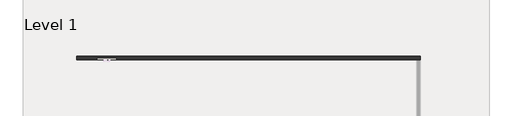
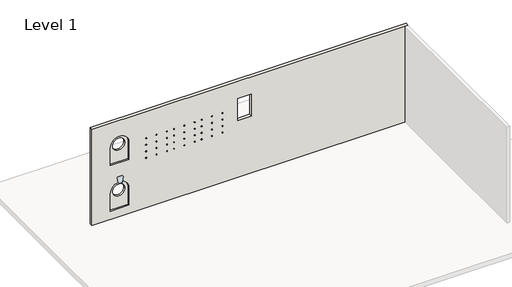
# One storey, part 2 of 3: 1 wall.
"""IFC4 building model written with IfcOpenShell, lengths in millimetres."""

from ifc_helpers import new_model, si_unit, frame, origin, place, context, project, spatial, polyline, circle_curve, element, save
from ifc_brep_helpers import plane_surface, revolved_surface, advanced_brep

model = new_model("IFC4")

# Units and contexts
model_context = context("Model", 3, world=origin())
ifc_project = project(units=[si_unit("LENGTHUNIT", "METRE", prefix="MILLI")], contexts=[model_context])

# Site, building, storey
site = spatial("IfcSite", under=ifc_project)
building = spatial("IfcBuilding", under=site)
storey = spatial("IfcBuildingStorey", under=building, Name="Level 1", Elevation=0.0)

# Wall
placement = place(None, origin())
element("IfcWall", 1, ObjectType="Generic - 8\"", at=placement, inside=storey, context=model_context, shape_type="AdvancedBrep", body=[
    advanced_brep(
    [(-10651.8299068, 6416.9361552, 0.0), (9972.9700932, 6416.9361552, 0.0), (10176.1700932, 6416.9361552, 0.0), (10176.1700932, 6416.9361552, 6705.6), (9972.9700932, 6416.9361552, 6705.6), (-10651.8299068, 6416.9361552, 6705.6), (-9432.6299068, 6416.9361552, 579.8651738), (-9432.6299068, 6416.9361552, 1799.0651738), (-8213.4299068, 6416.9361552, 1799.0651738), (-8213.4299068, 6416.9361552, 579.8651738), (-9432.6299068, 6416.9361552, 3768.9326935), (-9432.6299068, 6416.9361552, 4988.1326935), (-8213.4299068, 6416.9361552, 4988.1326935), (-8213.4299068, 6416.9361552, 3768.9326935), (-5724.2299068, 6416.9361552, 3923.0676017), (-5673.4299068, 6416.9361552, 3923.0676017), (-7095.8299068, 6416.9361552, 3923.0676017), (-7045.0299068, 6416.9361552, 3923.0676017), (-7095.8299068, 6416.9361552, 3465.8676017), (-7045.0299068, 6416.9361552, 3465.8676017), (-5724.2299068, 6416.9361552, 3465.8676017), (-5673.4299068, 6416.9361552, 3465.8676017), (-6410.0299068, 6416.9361552, 3923.0676017), (-6359.2299068, 6416.9361552, 3923.0676017), (-6410.0299068, 6416.9361552, 3465.8676017), (-6359.2299068, 6416.9361552, 3465.8676017), (-3895.4299068, 6416.9361552, 3928.5519039), (-3844.6299068, 6416.9361552, 3928.5519039), (-5267.0299068, 6416.9361552, 3928.5519039), (-5216.2299068, 6416.9361552, 3928.5519039), (-5267.0299068, 6416.9361552, 3471.3519039), (-5216.2299068, 6416.9361552, 3471.3519039), (-3895.4299068, 6416.9361552, 3471.3519039), (-3844.6299068, 6416.9361552, 3471.3519039), (-4581.2299068, 6416.9361552, 3928.5519039), (-4530.4299068, 6416.9361552, 3928.5519039), (-4581.2299068, 6416.9361552, 3471.3519039), (-4530.4299068, 6416.9361552, 3471.3519039), (-2066.6299068, 6416.9361552, 3931.9242605), (-2015.8299068, 6416.9361552, 3931.9242605), (-3438.2299068, 6416.9361552, 3931.9242605), (-3387.4299068, 6416.9361552, 3931.9242605), (-3438.2299068, 6416.9361552, 3474.7242605), (-3387.4299068, 6416.9361552, 3474.7242605), (-2066.6299068, 6416.9361552, 3474.7242605), (-2015.8299068, 6416.9361552, 3474.7242605), (-2752.4299068, 6416.9361552, 3931.9242605), (-2701.6299068, 6416.9361552, 3931.9242605), (-2752.4299068, 6416.9361552, 3474.7242605), (-2701.6299068, 6416.9361552, 3474.7242605), (-5724.2299068, 6416.9361552, 4839.651752), (-5673.4299068, 6416.9361552, 4839.651752), (-7095.8299068, 6416.9361552, 4839.651752), (-7045.0299068, 6416.9361552, 4839.651752), (-7095.8299068, 6416.9361552, 4382.451752), (-7045.0299068, 6416.9361552, 4382.451752), (-5724.2299068, 6416.9361552, 4382.451752), (-5673.4299068, 6416.9361552, 4382.451752), (-6410.0299068, 6416.9361552, 4839.651752), (-6359.2299068, 6416.9361552, 4839.651752), (-6410.0299068, 6416.9361552, 4382.451752), (-6359.2299068, 6416.9361552, 4382.451752), (-3895.4299068, 6416.9361552, 4842.2719902), (-3844.6299068, 6416.9361552, 4842.2719902), (-5267.0299068, 6416.9361552, 4842.2719902), (-5216.2299068, 6416.9361552, 4842.2719902), (-5267.0299068, 6416.9361552, 4385.0719902), (-5216.2299068, 6416.9361552, 4385.0719902), (-3895.4299068, 6416.9361552, 4385.0719902), (-3844.6299068, 6416.9361552, 4385.0719902), (-4581.2299068, 6416.9361552, 4842.2719902), (-4530.4299068, 6416.9361552, 4842.2719902), (-4581.2299068, 6416.9361552, 4385.0719902), (-4530.4299068, 6416.9361552, 4385.0719902), (-2066.6299068, 6416.9361552, 4846.3242605), (-2015.8299068, 6416.9361552, 4846.3242605), (-3438.2299068, 6416.9361552, 4846.3242605), (-3387.4299068, 6416.9361552, 4846.3242605), (-3438.2299068, 6416.9361552, 4389.1242605), (-3387.4299068, 6416.9361552, 4389.1242605), (-2066.6299068, 6416.9361552, 4389.1242605), (-2015.8299068, 6416.9361552, 4389.1242605), (-2752.4299068, 6416.9361552, 4846.3242605), (-2701.6299068, 6416.9361552, 4846.3242605), (-2752.4299068, 6416.9361552, 4389.1242605), (-2701.6299068, 6416.9361552, 4389.1242605), (-1050.6299068, 6416.9361552, 5486.4), (-136.2299068, 6416.9361552, 5486.4), (-136.2299068, 6416.9361552, 3962.4), (-1050.6299068, 6416.9361552, 3962.4), (-10651.8299068, 6620.1361552, 0.0), (-10651.8299068, 6620.1361552, 6705.6), (10176.1700932, 6620.1361552, 6705.6), (10176.1700932, 6620.1361552, 0.0), (-9229.4299068, 6620.1361552, 1799.0651738), (-8416.6299068, 6620.1361552, 1799.0651738), (-9229.4299068, 6620.1361552, 4988.1326935), (-8416.6299068, 6620.1361552, 4988.1326935), (-1050.6299068, 6620.1361552, 5486.4), (-1050.6299068, 6620.1361552, 3962.4), (-136.2299068, 6620.1361552, 3962.4), (-136.2299068, 6620.1361552, 5486.4), (-9432.6299068, 6518.5361552, 579.8651738), (-8213.4299068, 6518.5361552, 579.8651738), (-8213.4299068, 6518.5361552, 1799.0651738), (-9432.6299068, 6518.5361552, 1799.0651738), (-8416.6299068, 6518.5361552, 1799.0651738), (-9229.4299068, 6518.5361552, 1799.0651738), (-9432.6299068, 6518.5361552, 3768.9326935), (-8213.4299068, 6518.5361552, 3768.9326935), (-8213.4299068, 6518.5361552, 4988.1326935), (-9432.6299068, 6518.5361552, 4988.1326935), (-8416.6299068, 6518.5361552, 4988.1326935), (-9229.4299068, 6518.5361552, 4988.1326935), (-5724.2299068, 6467.7361552, 3923.0676017), (-5673.4299068, 6467.7361552, 3923.0676017), (-7095.8299068, 6467.7361552, 3923.0676017), (-7045.0299068, 6467.7361552, 3923.0676017), (-7095.8299068, 6467.7361552, 3465.8676017), (-7045.0299068, 6467.7361552, 3465.8676017), (-5724.2299068, 6467.7361552, 3465.8676017), (-5673.4299068, 6467.7361552, 3465.8676017), (-6410.0299068, 6467.7361552, 3923.0676017), (-6359.2299068, 6467.7361552, 3923.0676017), (-6410.0299068, 6467.7361552, 3465.8676017), (-6359.2299068, 6467.7361552, 3465.8676017), (-3895.4299068, 6467.7361552, 3928.5519039), (-3844.6299068, 6467.7361552, 3928.5519039), (-5267.0299068, 6467.7361552, 3928.5519039), (-5216.2299068, 6467.7361552, 3928.5519039), (-5267.0299068, 6467.7361552, 3471.3519039), (-5216.2299068, 6467.7361552, 3471.3519039), (-3895.4299068, 6467.7361552, 3471.3519039), (-3844.6299068, 6467.7361552, 3471.3519039), (-4581.2299068, 6467.7361552, 3928.5519039), (-4530.4299068, 6467.7361552, 3928.5519039), (-4581.2299068, 6467.7361552, 3471.3519039), (-4530.4299068, 6467.7361552, 3471.3519039), (-2066.6299068, 6467.7361552, 3931.9242605), (-2015.8299068, 6467.7361552, 3931.9242605), (-3438.2299068, 6467.7361552, 3931.9242605), (-3387.4299068, 6467.7361552, 3931.9242605), (-3438.2299068, 6467.7361552, 3474.7242605), (-3387.4299068, 6467.7361552, 3474.7242605), (-2066.6299068, 6467.7361552, 3474.7242605), (-2015.8299068, 6467.7361552, 3474.7242605), (-2752.4299068, 6467.7361552, 3931.9242605), (-2701.6299068, 6467.7361552, 3931.9242605), (-2752.4299068, 6467.7361552, 3474.7242605), (-2701.6299068, 6467.7361552, 3474.7242605), (-5724.2299068, 6467.7361552, 4839.651752), (-5673.4299068, 6467.7361552, 4839.651752), (-7095.8299068, 6467.7361552, 4839.651752), (-7045.0299068, 6467.7361552, 4839.651752), (-7095.8299068, 6467.7361552, 4382.451752), (-7045.0299068, 6467.7361552, 4382.451752), (-5724.2299068, 6467.7361552, 4382.451752), (-5673.4299068, 6467.7361552, 4382.451752), (-6410.0299068, 6467.7361552, 4839.651752), (-6359.2299068, 6467.7361552, 4839.651752), (-6410.0299068, 6467.7361552, 4382.451752), (-6359.2299068, 6467.7361552, 4382.451752), (-3895.4299068, 6467.7361552, 4842.2719902), (-3844.6299068, 6467.7361552, 4842.2719902), (-5267.0299068, 6467.7361552, 4842.2719902), (-5216.2299068, 6467.7361552, 4842.2719902), (-5267.0299068, 6467.7361552, 4385.0719902), (-5216.2299068, 6467.7361552, 4385.0719902), (-3895.4299068, 6467.7361552, 4385.0719902), (-3844.6299068, 6467.7361552, 4385.0719902), (-4581.2299068, 6467.7361552, 4842.2719902), (-4530.4299068, 6467.7361552, 4842.2719902), (-4581.2299068, 6467.7361552, 4385.0719902), (-4530.4299068, 6467.7361552, 4385.0719902), (-2066.6299068, 6467.7361552, 4846.3242605), (-2015.8299068, 6467.7361552, 4846.3242605), (-3438.2299068, 6467.7361552, 4846.3242605), (-3387.4299068, 6467.7361552, 4846.3242605), (-3438.2299068, 6467.7361552, 4389.1242605), (-3387.4299068, 6467.7361552, 4389.1242605), (-2066.6299068, 6467.7361552, 4389.1242605), (-2015.8299068, 6467.7361552, 4389.1242605), (-2752.4299068, 6467.7361552, 4846.3242605), (-2701.6299068, 6467.7361552, 4846.3242605), (-2752.4299068, 6467.7361552, 4389.1242605), (-2701.6299068, 6467.7361552, 4389.1242605)],
    [
        (0, 1),
        (1, 2),
        (2, 3),
        (3, 4),
        (4, 5),
        (5, 0),
        (6, 7),
        (7, 8, circle_curve(frame((-8823.0299068, 6416.9361552, 1799.0651738), z_axis=(0.0, 1.0, 0.0), x_axis=(1.0, 0.0, 0.0)), 609.6)),
        (8, 9),
        (9, 6),
        (10, 11),
        (11, 12, circle_curve(frame((-8823.0299068, 6416.9361552, 4988.1326935), z_axis=(0.0, 1.0, 0.0), x_axis=(1.0, 0.0, 0.0)), 609.6)),
        (12, 13),
        (13, 10),
        (14, 15, circle_curve(frame((-5698.8299068, 6416.9361552, 3923.0676017), z_axis=(0.0, 1.0, 0.0), x_axis=(1.0, 0.0, 0.0)), 25.4)),
        (15, 14, circle_curve(frame((-5698.8299068, 6416.9361552, 3923.0676017), z_axis=(0.0, 1.0, 0.0), x_axis=(1.0, 0.0, 0.0)), 25.4)),
        (16, 17, circle_curve(frame((-7070.4299068, 6416.9361552, 3923.0676017), z_axis=(0.0, 1.0, 0.0), x_axis=(1.0, 0.0, 0.0)), 25.4)),
        (17, 16, circle_curve(frame((-7070.4299068, 6416.9361552, 3923.0676017), z_axis=(0.0, 1.0, 0.0), x_axis=(1.0, 0.0, 0.0)), 25.4)),
        (18, 19, circle_curve(frame((-7070.4299068, 6416.9361552, 3465.8676017), z_axis=(0.0, 1.0, 0.0), x_axis=(1.0, 0.0, 0.0)), 25.4)),
        (19, 18, circle_curve(frame((-7070.4299068, 6416.9361552, 3465.8676017), z_axis=(0.0, 1.0, 0.0), x_axis=(1.0, 0.0, 0.0)), 25.4)),
        (20, 21, circle_curve(frame((-5698.8299068, 6416.9361552, 3465.8676017), z_axis=(0.0, 1.0, 0.0), x_axis=(1.0, 0.0, 0.0)), 25.4)),
        (21, 20, circle_curve(frame((-5698.8299068, 6416.9361552, 3465.8676017), z_axis=(0.0, 1.0, 0.0), x_axis=(1.0, 0.0, 0.0)), 25.4)),
        (22, 23, circle_curve(frame((-6384.6299068, 6416.9361552, 3923.0676017), z_axis=(0.0, 1.0, 0.0), x_axis=(1.0, 0.0, 0.0)), 25.4)),
        (23, 22, circle_curve(frame((-6384.6299068, 6416.9361552, 3923.0676017), z_axis=(0.0, 1.0, 0.0), x_axis=(1.0, 0.0, 0.0)), 25.4)),
        (24, 25, circle_curve(frame((-6384.6299068, 6416.9361552, 3465.8676017), z_axis=(0.0, 1.0, 0.0), x_axis=(1.0, 0.0, 0.0)), 25.4)),
        (25, 24, circle_curve(frame((-6384.6299068, 6416.9361552, 3465.8676017), z_axis=(0.0, 1.0, 0.0), x_axis=(1.0, 0.0, 0.0)), 25.4)),
        (26, 27, circle_curve(frame((-3870.0299068, 6416.9361552, 3928.5519039), z_axis=(0.0, 1.0, 0.0), x_axis=(1.0, 0.0, 0.0)), 25.4)),
        (27, 26, circle_curve(frame((-3870.0299068, 6416.9361552, 3928.5519039), z_axis=(0.0, 1.0, 0.0), x_axis=(1.0, 0.0, 0.0)), 25.4)),
        (28, 29, circle_curve(frame((-5241.6299068, 6416.9361552, 3928.5519039), z_axis=(0.0, 1.0, 0.0), x_axis=(1.0, 0.0, 0.0)), 25.4)),
        (29, 28, circle_curve(frame((-5241.6299068, 6416.9361552, 3928.5519039), z_axis=(0.0, 1.0, 0.0), x_axis=(1.0, 0.0, 0.0)), 25.4)),
        (30, 31, circle_curve(frame((-5241.6299068, 6416.9361552, 3471.3519039), z_axis=(0.0, 1.0, 0.0), x_axis=(1.0, 0.0, 0.0)), 25.4)),
        (31, 30, circle_curve(frame((-5241.6299068, 6416.9361552, 3471.3519039), z_axis=(0.0, 1.0, 0.0), x_axis=(1.0, 0.0, 0.0)), 25.4)),
        (32, 33, circle_curve(frame((-3870.0299068, 6416.9361552, 3471.3519039), z_axis=(0.0, 1.0, 0.0), x_axis=(1.0, 0.0, 0.0)), 25.4)),
        (33, 32, circle_curve(frame((-3870.0299068, 6416.9361552, 3471.3519039), z_axis=(0.0, 1.0, 0.0), x_axis=(1.0, 0.0, 0.0)), 25.4)),
        (34, 35, circle_curve(frame((-4555.8299068, 6416.9361552, 3928.5519039), z_axis=(0.0, 1.0, 0.0), x_axis=(1.0, 0.0, 0.0)), 25.4)),
        (35, 34, circle_curve(frame((-4555.8299068, 6416.9361552, 3928.5519039), z_axis=(0.0, 1.0, 0.0), x_axis=(1.0, 0.0, 0.0)), 25.4)),
        (36, 37, circle_curve(frame((-4555.8299068, 6416.9361552, 3471.3519039), z_axis=(0.0, 1.0, 0.0), x_axis=(1.0, 0.0, 0.0)), 25.4)),
        (37, 36, circle_curve(frame((-4555.8299068, 6416.9361552, 3471.3519039), z_axis=(0.0, 1.0, 0.0), x_axis=(1.0, 0.0, 0.0)), 25.4)),
        (38, 39, circle_curve(frame((-2041.2299068, 6416.9361552, 3931.9242605), z_axis=(0.0, 1.0, 0.0), x_axis=(1.0, 0.0, 0.0)), 25.4)),
        (39, 38, circle_curve(frame((-2041.2299068, 6416.9361552, 3931.9242605), z_axis=(0.0, 1.0, 0.0), x_axis=(1.0, 0.0, 0.0)), 25.4)),
        (40, 41, circle_curve(frame((-3412.8299068, 6416.9361552, 3931.9242605), z_axis=(0.0, 1.0, 0.0), x_axis=(1.0, 0.0, 0.0)), 25.4)),
        (41, 40, circle_curve(frame((-3412.8299068, 6416.9361552, 3931.9242605), z_axis=(0.0, 1.0, 0.0), x_axis=(1.0, 0.0, 0.0)), 25.4)),
        (42, 43, circle_curve(frame((-3412.8299068, 6416.9361552, 3474.7242605), z_axis=(0.0, 1.0, 0.0), x_axis=(1.0, 0.0, 0.0)), 25.4)),
        (43, 42, circle_curve(frame((-3412.8299068, 6416.9361552, 3474.7242605), z_axis=(0.0, 1.0, 0.0), x_axis=(1.0, 0.0, 0.0)), 25.4)),
        (44, 45, circle_curve(frame((-2041.2299068, 6416.9361552, 3474.7242605), z_axis=(0.0, 1.0, 0.0), x_axis=(1.0, 0.0, 0.0)), 25.4)),
        (45, 44, circle_curve(frame((-2041.2299068, 6416.9361552, 3474.7242605), z_axis=(0.0, 1.0, 0.0), x_axis=(1.0, 0.0, 0.0)), 25.4)),
        (46, 47, circle_curve(frame((-2727.0299068, 6416.9361552, 3931.9242605), z_axis=(0.0, 1.0, 0.0), x_axis=(1.0, 0.0, 0.0)), 25.4)),
        (47, 46, circle_curve(frame((-2727.0299068, 6416.9361552, 3931.9242605), z_axis=(0.0, 1.0, 0.0), x_axis=(1.0, 0.0, 0.0)), 25.4)),
        (48, 49, circle_curve(frame((-2727.0299068, 6416.9361552, 3474.7242605), z_axis=(0.0, 1.0, 0.0), x_axis=(1.0, 0.0, 0.0)), 25.4)),
        (49, 48, circle_curve(frame((-2727.0299068, 6416.9361552, 3474.7242605), z_axis=(0.0, 1.0, 0.0), x_axis=(1.0, 0.0, 0.0)), 25.4)),
        (50, 51, circle_curve(frame((-5698.8299068, 6416.9361552, 4839.651752), z_axis=(0.0, 1.0, 0.0), x_axis=(1.0, 0.0, 0.0)), 25.4)),
        (51, 50, circle_curve(frame((-5698.8299068, 6416.9361552, 4839.651752), z_axis=(0.0, 1.0, 0.0), x_axis=(1.0, 0.0, 0.0)), 25.4)),
        (52, 53, circle_curve(frame((-7070.4299068, 6416.9361552, 4839.651752), z_axis=(0.0, 1.0, 0.0), x_axis=(1.0, 0.0, 0.0)), 25.4)),
        (53, 52, circle_curve(frame((-7070.4299068, 6416.9361552, 4839.651752), z_axis=(0.0, 1.0, 0.0), x_axis=(1.0, 0.0, 0.0)), 25.4)),
        (54, 55, circle_curve(frame((-7070.4299068, 6416.9361552, 4382.451752), z_axis=(0.0, 1.0, 0.0), x_axis=(1.0, 0.0, 0.0)), 25.4)),
        (55, 54, circle_curve(frame((-7070.4299068, 6416.9361552, 4382.451752), z_axis=(0.0, 1.0, 0.0), x_axis=(1.0, 0.0, 0.0)), 25.4)),
        (56, 57, circle_curve(frame((-5698.8299068, 6416.9361552, 4382.451752), z_axis=(0.0, 1.0, 0.0), x_axis=(1.0, 0.0, 0.0)), 25.4)),
        (57, 56, circle_curve(frame((-5698.8299068, 6416.9361552, 4382.451752), z_axis=(0.0, 1.0, 0.0), x_axis=(1.0, 0.0, 0.0)), 25.4)),
        (58, 59, circle_curve(frame((-6384.6299068, 6416.9361552, 4839.651752), z_axis=(0.0, 1.0, 0.0), x_axis=(1.0, 0.0, 0.0)), 25.4)),
        (59, 58, circle_curve(frame((-6384.6299068, 6416.9361552, 4839.651752), z_axis=(0.0, 1.0, 0.0), x_axis=(1.0, 0.0, 0.0)), 25.4)),
        (60, 61, circle_curve(frame((-6384.6299068, 6416.9361552, 4382.451752), z_axis=(0.0, 1.0, 0.0), x_axis=(1.0, 0.0, 0.0)), 25.4)),
        (61, 60, circle_curve(frame((-6384.6299068, 6416.9361552, 4382.451752), z_axis=(0.0, 1.0, 0.0), x_axis=(1.0, 0.0, 0.0)), 25.4)),
        (62, 63, circle_curve(frame((-3870.0299068, 6416.9361552, 4842.2719902), z_axis=(0.0, 1.0, 0.0), x_axis=(1.0, 0.0, 0.0)), 25.4)),
        (63, 62, circle_curve(frame((-3870.0299068, 6416.9361552, 4842.2719902), z_axis=(0.0, 1.0, 0.0), x_axis=(1.0, 0.0, 0.0)), 25.4)),
        (64, 65, circle_curve(frame((-5241.6299068, 6416.9361552, 4842.2719902), z_axis=(0.0, 1.0, 0.0), x_axis=(1.0, 0.0, 0.0)), 25.4)),
        (65, 64, circle_curve(frame((-5241.6299068, 6416.9361552, 4842.2719902), z_axis=(0.0, 1.0, 0.0), x_axis=(1.0, 0.0, 0.0)), 25.4)),
        (66, 67, circle_curve(frame((-5241.6299068, 6416.9361552, 4385.0719902), z_axis=(0.0, 1.0, 0.0), x_axis=(1.0, 0.0, 0.0)), 25.4)),
        (67, 66, circle_curve(frame((-5241.6299068, 6416.9361552, 4385.0719902), z_axis=(0.0, 1.0, 0.0), x_axis=(1.0, 0.0, 0.0)), 25.4)),
        (68, 69, circle_curve(frame((-3870.0299068, 6416.9361552, 4385.0719902), z_axis=(0.0, 1.0, 0.0), x_axis=(1.0, 0.0, 0.0)), 25.4)),
        (69, 68, circle_curve(frame((-3870.0299068, 6416.9361552, 4385.0719902), z_axis=(0.0, 1.0, 0.0), x_axis=(1.0, 0.0, 0.0)), 25.4)),
        (70, 71, circle_curve(frame((-4555.8299068, 6416.9361552, 4842.2719902), z_axis=(0.0, 1.0, 0.0), x_axis=(1.0, 0.0, 0.0)), 25.4)),
        (71, 70, circle_curve(frame((-4555.8299068, 6416.9361552, 4842.2719902), z_axis=(0.0, 1.0, 0.0), x_axis=(1.0, 0.0, 0.0)), 25.4)),
        (72, 73, circle_curve(frame((-4555.8299068, 6416.9361552, 4385.0719902), z_axis=(0.0, 1.0, 0.0), x_axis=(1.0, 0.0, 0.0)), 25.4)),
        (73, 72, circle_curve(frame((-4555.8299068, 6416.9361552, 4385.0719902), z_axis=(0.0, 1.0, 0.0), x_axis=(1.0, 0.0, 0.0)), 25.4)),
        (74, 75, circle_curve(frame((-2041.2299068, 6416.9361552, 4846.3242605), z_axis=(0.0, 1.0, 0.0), x_axis=(1.0, 0.0, 0.0)), 25.4)),
        (75, 74, circle_curve(frame((-2041.2299068, 6416.9361552, 4846.3242605), z_axis=(0.0, 1.0, 0.0), x_axis=(1.0, 0.0, 0.0)), 25.4)),
        (76, 77, circle_curve(frame((-3412.8299068, 6416.9361552, 4846.3242605), z_axis=(0.0, 1.0, 0.0), x_axis=(1.0, 0.0, 0.0)), 25.4)),
        (77, 76, circle_curve(frame((-3412.8299068, 6416.9361552, 4846.3242605), z_axis=(0.0, 1.0, 0.0), x_axis=(1.0, 0.0, 0.0)), 25.4)),
        (78, 79, circle_curve(frame((-3412.8299068, 6416.9361552, 4389.1242605), z_axis=(0.0, 1.0, 0.0), x_axis=(1.0, 0.0, 0.0)), 25.4)),
        (79, 78, circle_curve(frame((-3412.8299068, 6416.9361552, 4389.1242605), z_axis=(0.0, 1.0, 0.0), x_axis=(1.0, 0.0, 0.0)), 25.4)),
        (80, 81, circle_curve(frame((-2041.2299068, 6416.9361552, 4389.1242605), z_axis=(0.0, 1.0, 0.0), x_axis=(1.0, 0.0, 0.0)), 25.4)),
        (81, 80, circle_curve(frame((-2041.2299068, 6416.9361552, 4389.1242605), z_axis=(0.0, 1.0, 0.0), x_axis=(1.0, 0.0, 0.0)), 25.4)),
        (82, 83, circle_curve(frame((-2727.0299068, 6416.9361552, 4846.3242605), z_axis=(0.0, 1.0, 0.0), x_axis=(1.0, 0.0, 0.0)), 25.4)),
        (83, 82, circle_curve(frame((-2727.0299068, 6416.9361552, 4846.3242605), z_axis=(0.0, 1.0, 0.0), x_axis=(1.0, 0.0, 0.0)), 25.4)),
        (84, 85, circle_curve(frame((-2727.0299068, 6416.9361552, 4389.1242605), z_axis=(0.0, 1.0, 0.0), x_axis=(1.0, 0.0, 0.0)), 25.4)),
        (85, 84, circle_curve(frame((-2727.0299068, 6416.9361552, 4389.1242605), z_axis=(0.0, 1.0, 0.0), x_axis=(1.0, 0.0, 0.0)), 25.4)),
        (86, 87),
        (87, 88),
        (88, 89),
        (89, 86),
        (90, 91),
        (91, 92),
        (92, 93),
        (93, 90),
        (94, 95, circle_curve(frame((-8823.0299068, 6620.1361552, 1799.0651738), z_axis=(0.0, -1.0, 0.0), x_axis=(1.0, 0.0, 0.0)), 406.4)),
        (95, 94, circle_curve(frame((-8823.0299068, 6620.1361552, 1799.0651738), z_axis=(0.0, -1.0, 0.0), x_axis=(1.0, 0.0, 0.0)), 406.4)),
        (96, 97, circle_curve(frame((-8823.0299068, 6620.1361552, 4988.1326935), z_axis=(0.0, -1.0, 0.0), x_axis=(1.0, 0.0, 0.0)), 406.4)),
        (97, 96, circle_curve(frame((-8823.0299068, 6620.1361552, 4988.1326935), z_axis=(0.0, -1.0, 0.0), x_axis=(1.0, 0.0, 0.0)), 406.4)),
        (98, 99),
        (99, 100),
        (100, 101),
        (101, 98),
        (0, 90),
        (93, 2),
        (3, 92),
        (91, 5),
        (102, 103),
        (103, 104),
        (104, 105, circle_curve(frame((-8823.0299068, 6518.5361552, 1799.0651738), z_axis=(0.0, -1.0, 0.0), x_axis=(1.0, 0.0, 0.0)), 609.6)),
        (105, 102),
        (106, 107, circle_curve(frame((-8823.0299068, 6518.5361552, 1799.0651738), z_axis=(0.0, 1.0, 0.0), x_axis=(1.0, 0.0, 0.0)), 406.4)),
        (107, 106, circle_curve(frame((-8823.0299068, 6518.5361552, 1799.0651738), z_axis=(0.0, 1.0, 0.0), x_axis=(1.0, 0.0, 0.0)), 406.4)),
        (105, 7),
        (6, 102),
        (104, 8),
        (103, 9),
        (106, 95),
        (94, 107),
        (108, 109),
        (109, 110),
        (110, 111, circle_curve(frame((-8823.0299068, 6518.5361552, 4988.1326935), z_axis=(0.0, -1.0, 0.0), x_axis=(1.0, 0.0, 0.0)), 609.6)),
        (111, 108),
        (112, 113, circle_curve(frame((-8823.0299068, 6518.5361552, 4988.1326935), z_axis=(0.0, 1.0, 0.0), x_axis=(1.0, 0.0, 0.0)), 406.4)),
        (113, 112, circle_curve(frame((-8823.0299068, 6518.5361552, 4988.1326935), z_axis=(0.0, 1.0, 0.0), x_axis=(1.0, 0.0, 0.0)), 406.4)),
        (111, 11),
        (10, 108),
        (110, 12),
        (109, 13),
        (112, 97),
        (96, 113),
        (114, 115, circle_curve(frame((-5698.8299068, 6467.7361552, 3923.0676017), z_axis=(0.0, -1.0, 0.0), x_axis=(1.0, 0.0, 0.0)), 25.4)),
        (115, 114, circle_curve(frame((-5698.8299068, 6467.7361552, 3923.0676017), z_axis=(0.0, -1.0, 0.0), x_axis=(1.0, 0.0, 0.0)), 25.4)),
        (116, 117, circle_curve(frame((-7070.4299068, 6467.7361552, 3923.0676017), z_axis=(0.0, -1.0, 0.0), x_axis=(1.0, 0.0, 0.0)), 25.4)),
        (117, 116, circle_curve(frame((-7070.4299068, 6467.7361552, 3923.0676017), z_axis=(0.0, -1.0, 0.0), x_axis=(1.0, 0.0, 0.0)), 25.4)),
        (118, 119, circle_curve(frame((-7070.4299068, 6467.7361552, 3465.8676017), z_axis=(0.0, -1.0, 0.0), x_axis=(1.0, 0.0, 0.0)), 25.4)),
        (119, 118, circle_curve(frame((-7070.4299068, 6467.7361552, 3465.8676017), z_axis=(0.0, -1.0, 0.0), x_axis=(1.0, 0.0, 0.0)), 25.4)),
        (120, 121, circle_curve(frame((-5698.8299068, 6467.7361552, 3465.8676017), z_axis=(0.0, -1.0, 0.0), x_axis=(1.0, 0.0, 0.0)), 25.4)),
        (121, 120, circle_curve(frame((-5698.8299068, 6467.7361552, 3465.8676017), z_axis=(0.0, -1.0, 0.0), x_axis=(1.0, 0.0, 0.0)), 25.4)),
        (122, 123, circle_curve(frame((-6384.6299068, 6467.7361552, 3923.0676017), z_axis=(0.0, -1.0, 0.0), x_axis=(1.0, 0.0, 0.0)), 25.4)),
        (123, 122, circle_curve(frame((-6384.6299068, 6467.7361552, 3923.0676017), z_axis=(0.0, -1.0, 0.0), x_axis=(1.0, 0.0, 0.0)), 25.4)),
        (124, 125, circle_curve(frame((-6384.6299068, 6467.7361552, 3465.8676017), z_axis=(0.0, -1.0, 0.0), x_axis=(1.0, 0.0, 0.0)), 25.4)),
        (125, 124, circle_curve(frame((-6384.6299068, 6467.7361552, 3465.8676017), z_axis=(0.0, -1.0, 0.0), x_axis=(1.0, 0.0, 0.0)), 25.4)),
        (115, 15),
        (14, 114),
        (117, 17),
        (16, 116),
        (119, 19),
        (18, 118),
        (121, 21),
        (20, 120),
        (123, 23),
        (22, 122),
        (125, 25),
        (24, 124),
        (126, 127, circle_curve(frame((-3870.0299068, 6467.7361552, 3928.5519039), z_axis=(0.0, -1.0, 0.0), x_axis=(1.0, 0.0, 0.0)), 25.4)),
        (127, 126, circle_curve(frame((-3870.0299068, 6467.7361552, 3928.5519039), z_axis=(0.0, -1.0, 0.0), x_axis=(1.0, 0.0, 0.0)), 25.4)),
        (128, 129, circle_curve(frame((-5241.6299068, 6467.7361552, 3928.5519039), z_axis=(0.0, -1.0, 0.0), x_axis=(1.0, 0.0, 0.0)), 25.4)),
        (129, 128, circle_curve(frame((-5241.6299068, 6467.7361552, 3928.5519039), z_axis=(0.0, -1.0, 0.0), x_axis=(1.0, 0.0, 0.0)), 25.4)),
        (130, 131, circle_curve(frame((-5241.6299068, 6467.7361552, 3471.3519039), z_axis=(0.0, -1.0, 0.0), x_axis=(1.0, 0.0, 0.0)), 25.4)),
        (131, 130, circle_curve(frame((-5241.6299068, 6467.7361552, 3471.3519039), z_axis=(0.0, -1.0, 0.0), x_axis=(1.0, 0.0, 0.0)), 25.4)),
        (132, 133, circle_curve(frame((-3870.0299068, 6467.7361552, 3471.3519039), z_axis=(0.0, -1.0, 0.0), x_axis=(1.0, 0.0, 0.0)), 25.4)),
        (133, 132, circle_curve(frame((-3870.0299068, 6467.7361552, 3471.3519039), z_axis=(0.0, -1.0, 0.0), x_axis=(1.0, 0.0, 0.0)), 25.4)),
        (134, 135, circle_curve(frame((-4555.8299068, 6467.7361552, 3928.5519039), z_axis=(0.0, -1.0, 0.0), x_axis=(1.0, 0.0, 0.0)), 25.4)),
        (135, 134, circle_curve(frame((-4555.8299068, 6467.7361552, 3928.5519039), z_axis=(0.0, -1.0, 0.0), x_axis=(1.0, 0.0, 0.0)), 25.4)),
        (136, 137, circle_curve(frame((-4555.8299068, 6467.7361552, 3471.3519039), z_axis=(0.0, -1.0, 0.0), x_axis=(1.0, 0.0, 0.0)), 25.4)),
        (137, 136, circle_curve(frame((-4555.8299068, 6467.7361552, 3471.3519039), z_axis=(0.0, -1.0, 0.0), x_axis=(1.0, 0.0, 0.0)), 25.4)),
        (127, 27),
        (26, 126),
        (129, 29),
        (28, 128),
        (131, 31),
        (30, 130),
        (133, 33),
        (32, 132),
        (135, 35),
        (34, 134),
        (137, 37),
        (36, 136),
        (138, 139, circle_curve(frame((-2041.2299068, 6467.7361552, 3931.9242605), z_axis=(0.0, -1.0, 0.0), x_axis=(1.0, 0.0, 0.0)), 25.4)),
        (139, 138, circle_curve(frame((-2041.2299068, 6467.7361552, 3931.9242605), z_axis=(0.0, -1.0, 0.0), x_axis=(1.0, 0.0, 0.0)), 25.4)),
        (140, 141, circle_curve(frame((-3412.8299068, 6467.7361552, 3931.9242605), z_axis=(0.0, -1.0, 0.0), x_axis=(1.0, 0.0, 0.0)), 25.4)),
        (141, 140, circle_curve(frame((-3412.8299068, 6467.7361552, 3931.9242605), z_axis=(0.0, -1.0, 0.0), x_axis=(1.0, 0.0, 0.0)), 25.4)),
        (142, 143, circle_curve(frame((-3412.8299068, 6467.7361552, 3474.7242605), z_axis=(0.0, -1.0, 0.0), x_axis=(1.0, 0.0, 0.0)), 25.4)),
        (143, 142, circle_curve(frame((-3412.8299068, 6467.7361552, 3474.7242605), z_axis=(0.0, -1.0, 0.0), x_axis=(1.0, 0.0, 0.0)), 25.4)),
        (144, 145, circle_curve(frame((-2041.2299068, 6467.7361552, 3474.7242605), z_axis=(0.0, -1.0, 0.0), x_axis=(1.0, 0.0, 0.0)), 25.4)),
        (145, 144, circle_curve(frame((-2041.2299068, 6467.7361552, 3474.7242605), z_axis=(0.0, -1.0, 0.0), x_axis=(1.0, 0.0, 0.0)), 25.4)),
        (146, 147, circle_curve(frame((-2727.0299068, 6467.7361552, 3931.9242605), z_axis=(0.0, -1.0, 0.0), x_axis=(1.0, 0.0, 0.0)), 25.4)),
        (147, 146, circle_curve(frame((-2727.0299068, 6467.7361552, 3931.9242605), z_axis=(0.0, -1.0, 0.0), x_axis=(1.0, 0.0, 0.0)), 25.4)),
        (148, 149, circle_curve(frame((-2727.0299068, 6467.7361552, 3474.7242605), z_axis=(0.0, -1.0, 0.0), x_axis=(1.0, 0.0, 0.0)), 25.4)),
        (149, 148, circle_curve(frame((-2727.0299068, 6467.7361552, 3474.7242605), z_axis=(0.0, -1.0, 0.0), x_axis=(1.0, 0.0, 0.0)), 25.4)),
        (139, 39),
        (38, 138),
        (141, 41),
        (40, 140),
        (143, 43),
        (42, 142),
        (145, 45),
        (44, 144),
        (147, 47),
        (46, 146),
        (149, 49),
        (48, 148),
        (150, 151, circle_curve(frame((-5698.8299068, 6467.7361552, 4839.651752), z_axis=(0.0, -1.0, 0.0), x_axis=(1.0, 0.0, 0.0)), 25.4)),
        (151, 150, circle_curve(frame((-5698.8299068, 6467.7361552, 4839.651752), z_axis=(0.0, -1.0, 0.0), x_axis=(1.0, 0.0, 0.0)), 25.4)),
        (152, 153, circle_curve(frame((-7070.4299068, 6467.7361552, 4839.651752), z_axis=(0.0, -1.0, 0.0), x_axis=(1.0, 0.0, 0.0)), 25.4)),
        (153, 152, circle_curve(frame((-7070.4299068, 6467.7361552, 4839.651752), z_axis=(0.0, -1.0, 0.0), x_axis=(1.0, 0.0, 0.0)), 25.4)),
        (154, 155, circle_curve(frame((-7070.4299068, 6467.7361552, 4382.451752), z_axis=(0.0, -1.0, 0.0), x_axis=(1.0, 0.0, 0.0)), 25.4)),
        (155, 154, circle_curve(frame((-7070.4299068, 6467.7361552, 4382.451752), z_axis=(0.0, -1.0, 0.0), x_axis=(1.0, 0.0, 0.0)), 25.4)),
        (156, 157, circle_curve(frame((-5698.8299068, 6467.7361552, 4382.451752), z_axis=(0.0, -1.0, 0.0), x_axis=(1.0, 0.0, 0.0)), 25.4)),
        (157, 156, circle_curve(frame((-5698.8299068, 6467.7361552, 4382.451752), z_axis=(0.0, -1.0, 0.0), x_axis=(1.0, 0.0, 0.0)), 25.4)),
        (158, 159, circle_curve(frame((-6384.6299068, 6467.7361552, 4839.651752), z_axis=(0.0, -1.0, 0.0), x_axis=(1.0, 0.0, 0.0)), 25.4)),
        (159, 158, circle_curve(frame((-6384.6299068, 6467.7361552, 4839.651752), z_axis=(0.0, -1.0, 0.0), x_axis=(1.0, 0.0, 0.0)), 25.4)),
        (160, 161, circle_curve(frame((-6384.6299068, 6467.7361552, 4382.451752), z_axis=(0.0, -1.0, 0.0), x_axis=(1.0, 0.0, 0.0)), 25.4)),
        (161, 160, circle_curve(frame((-6384.6299068, 6467.7361552, 4382.451752), z_axis=(0.0, -1.0, 0.0), x_axis=(1.0, 0.0, 0.0)), 25.4)),
        (151, 51),
        (50, 150),
        (153, 53),
        (52, 152),
        (155, 55),
        (54, 154),
        (157, 57),
        (56, 156),
        (159, 59),
        (58, 158),
        (161, 61),
        (60, 160),
        (162, 163, circle_curve(frame((-3870.0299068, 6467.7361552, 4842.2719902), z_axis=(0.0, -1.0, 0.0), x_axis=(1.0, 0.0, 0.0)), 25.4)),
        (163, 162, circle_curve(frame((-3870.0299068, 6467.7361552, 4842.2719902), z_axis=(0.0, -1.0, 0.0), x_axis=(1.0, 0.0, 0.0)), 25.4)),
        (164, 165, circle_curve(frame((-5241.6299068, 6467.7361552, 4842.2719902), z_axis=(0.0, -1.0, 0.0), x_axis=(1.0, 0.0, 0.0)), 25.4)),
        (165, 164, circle_curve(frame((-5241.6299068, 6467.7361552, 4842.2719902), z_axis=(0.0, -1.0, 0.0), x_axis=(1.0, 0.0, 0.0)), 25.4)),
        (166, 167, circle_curve(frame((-5241.6299068, 6467.7361552, 4385.0719902), z_axis=(0.0, -1.0, 0.0), x_axis=(1.0, 0.0, 0.0)), 25.4)),
        (167, 166, circle_curve(frame((-5241.6299068, 6467.7361552, 4385.0719902), z_axis=(0.0, -1.0, 0.0), x_axis=(1.0, 0.0, 0.0)), 25.4)),
        (168, 169, circle_curve(frame((-3870.0299068, 6467.7361552, 4385.0719902), z_axis=(0.0, -1.0, 0.0), x_axis=(1.0, 0.0, 0.0)), 25.4)),
        (169, 168, circle_curve(frame((-3870.0299068, 6467.7361552, 4385.0719902), z_axis=(0.0, -1.0, 0.0), x_axis=(1.0, 0.0, 0.0)), 25.4)),
        (170, 171, circle_curve(frame((-4555.8299068, 6467.7361552, 4842.2719902), z_axis=(0.0, -1.0, 0.0), x_axis=(1.0, 0.0, 0.0)), 25.4)),
        (171, 170, circle_curve(frame((-4555.8299068, 6467.7361552, 4842.2719902), z_axis=(0.0, -1.0, 0.0), x_axis=(1.0, 0.0, 0.0)), 25.4)),
        (172, 173, circle_curve(frame((-4555.8299068, 6467.7361552, 4385.0719902), z_axis=(0.0, -1.0, 0.0), x_axis=(1.0, 0.0, 0.0)), 25.4)),
        (173, 172, circle_curve(frame((-4555.8299068, 6467.7361552, 4385.0719902), z_axis=(0.0, -1.0, 0.0), x_axis=(1.0, 0.0, 0.0)), 25.4)),
        (163, 63),
        (62, 162),
        (165, 65),
        (64, 164),
        (167, 67),
        (66, 166),
        (169, 69),
        (68, 168),
        (171, 71),
        (70, 170),
        (173, 73),
        (72, 172),
        (174, 175, circle_curve(frame((-2041.2299068, 6467.7361552, 4846.3242605), z_axis=(0.0, -1.0, 0.0), x_axis=(1.0, 0.0, 0.0)), 25.4)),
        (175, 174, circle_curve(frame((-2041.2299068, 6467.7361552, 4846.3242605), z_axis=(0.0, -1.0, 0.0), x_axis=(1.0, 0.0, 0.0)), 25.4)),
        (176, 177, circle_curve(frame((-3412.8299068, 6467.7361552, 4846.3242605), z_axis=(0.0, -1.0, 0.0), x_axis=(1.0, 0.0, 0.0)), 25.4)),
        (177, 176, circle_curve(frame((-3412.8299068, 6467.7361552, 4846.3242605), z_axis=(0.0, -1.0, 0.0), x_axis=(1.0, 0.0, 0.0)), 25.4)),
        (178, 179, circle_curve(frame((-3412.8299068, 6467.7361552, 4389.1242605), z_axis=(0.0, -1.0, 0.0), x_axis=(1.0, 0.0, 0.0)), 25.4)),
        (179, 178, circle_curve(frame((-3412.8299068, 6467.7361552, 4389.1242605), z_axis=(0.0, -1.0, 0.0), x_axis=(1.0, 0.0, 0.0)), 25.4)),
        (180, 181, circle_curve(frame((-2041.2299068, 6467.7361552, 4389.1242605), z_axis=(0.0, -1.0, 0.0), x_axis=(1.0, 0.0, 0.0)), 25.4)),
        (181, 180, circle_curve(frame((-2041.2299068, 6467.7361552, 4389.1242605), z_axis=(0.0, -1.0, 0.0), x_axis=(1.0, 0.0, 0.0)), 25.4)),
        (182, 183, circle_curve(frame((-2727.0299068, 6467.7361552, 4846.3242605), z_axis=(0.0, -1.0, 0.0), x_axis=(1.0, 0.0, 0.0)), 25.4)),
        (183, 182, circle_curve(frame((-2727.0299068, 6467.7361552, 4846.3242605), z_axis=(0.0, -1.0, 0.0), x_axis=(1.0, 0.0, 0.0)), 25.4)),
        (184, 185, circle_curve(frame((-2727.0299068, 6467.7361552, 4389.1242605), z_axis=(0.0, -1.0, 0.0), x_axis=(1.0, 0.0, 0.0)), 25.4)),
        (185, 184, circle_curve(frame((-2727.0299068, 6467.7361552, 4389.1242605), z_axis=(0.0, -1.0, 0.0), x_axis=(1.0, 0.0, 0.0)), 25.4)),
        (175, 75),
        (74, 174),
        (177, 77),
        (76, 176),
        (179, 79),
        (78, 178),
        (181, 81),
        (80, 180),
        (183, 83),
        (82, 182),
        (185, 85),
        (84, 184),
        (98, 86),
        (89, 99),
        (88, 100),
        (87, 101),
    ],
    [
        plane_surface(frame((-10651.8299068, 6416.9361552, 0.0), z_axis=(0.0, -1.0, 0.0), x_axis=(1.0, 0.0, 0.0))),
        plane_surface(frame((-10651.8299068, 6620.1361552, 0.0), z_axis=(0.0, 1.0, 0.0), x_axis=(-1.0, 0.0, 0.0))),
        plane_surface(frame((-10651.8299068, 6416.9361552, 0.0), z_axis=(0.0, 0.0, -1.0), x_axis=(0.0, 1.0, 0.0))),
        plane_surface(frame((10074.5700932, 6416.9361552, 6705.6), z_axis=(0.0, 0.0, 1.0), x_axis=(0.0, 1.0, 0.0))),
        plane_surface(frame((-10651.8299068, 6416.9361552, 6705.6), z_axis=(-1.0, 0.0, 0.0), x_axis=(0.0, 1.0, 0.0))),
        plane_surface(frame((10176.1700932, 6518.5361552, 0.0), z_axis=(1.0, 0.0, 0.0), x_axis=(0.0, 1.0, 0.0))),
        plane_surface(frame((-9432.6299068, 6518.5361552, 1799.0651738), z_axis=(0.0, -1.0, 0.0), x_axis=(0.0, 0.0, 1.0))),
        plane_surface(frame((-9432.6299068, 6518.5361552, 579.8651738), z_axis=(1.0, 0.0, 0.0), x_axis=(0.0, -1.0, 0.0))),
        revolved_surface(polyline([(-8213.4299068, 6518.5361552, 1799.0651738), (-8213.4299068, 6416.9361552, 1799.0651738)]), (-8823.0299068, 6416.9361552, 1799.0651738), (0.0, 1.0, 0.0)),
        plane_surface(frame((-8213.4299068, 6518.5361552, 1799.0651738), z_axis=(-1.0, 0.0, 0.0), x_axis=(0.0, -1.0, 0.0))),
        plane_surface(frame((-8213.4299068, 6518.5361552, 579.8651738), z_axis=(0.0, 0.0, 1.0), x_axis=(0.0, -1.0, 0.0))),
        revolved_surface(polyline([(-8416.6299068, 6518.5361552, 1799.0651738), (-8416.6299068, 6620.1361552, 1799.0651738)]), (-8823.0299068, 6620.1361552, 1799.0651738), (0.0, -1.0, 0.0)),
        plane_surface(frame((-9432.6299068, 6518.5361552, 4988.1326935), z_axis=(0.0, -1.0, 0.0), x_axis=(0.0, 0.0, 1.0))),
        plane_surface(frame((-9432.6299068, 6518.5361552, 3768.9326935), z_axis=(1.0, 0.0, 0.0), x_axis=(0.0, -1.0, 0.0))),
        revolved_surface(polyline([(-8213.4299068, 6518.5361552, 4988.1326935), (-8213.4299068, 6416.9361552, 4988.1326935)]), (-8823.0299068, 6416.9361552, 4988.1326935), (0.0, 1.0, 0.0)),
        plane_surface(frame((-8213.4299068, 6518.5361552, 4988.1326935), z_axis=(-1.0, 0.0, 0.0), x_axis=(0.0, -1.0, 0.0))),
        plane_surface(frame((-8213.4299068, 6518.5361552, 3768.9326935), z_axis=(0.0, 0.0, 1.0), x_axis=(0.0, -1.0, 0.0))),
        revolved_surface(polyline([(-8416.6299068, 6518.5361552, 4988.1326935), (-8416.6299068, 6620.1361552, 4988.1326935)]), (-8823.0299068, 6620.1361552, 4988.1326935), (0.0, -1.0, 0.0)),
        plane_surface(frame((-5673.4299068, 6467.7361552, 3923.0676017), z_axis=(0.0, -1.0, 0.0), x_axis=(0.0, 0.0, -1.0))),
        revolved_surface(polyline([(-5673.4299068, 6467.7361552, 3923.0676017), (-5673.4299068, 6416.9361552, 3923.0676017)]), (-5698.8299068, 6416.9361552, 3923.0676017), (0.0, 1.0, 0.0)),
        revolved_surface(polyline([(-7045.0299068, 6467.7361552, 3923.0676017), (-7045.0299068, 6416.9361552, 3923.0676017)]), (-7070.4299068, 6416.9361552, 3923.0676017), (0.0, 1.0, 0.0)),
        revolved_surface(polyline([(-7045.0299068, 6467.7361552, 3465.8676017), (-7045.0299068, 6416.9361552, 3465.8676017)]), (-7070.4299068, 6416.9361552, 3465.8676017), (0.0, 1.0, 0.0)),
        revolved_surface(polyline([(-5673.4299068, 6467.7361552, 3465.8676017), (-5673.4299068, 6416.9361552, 3465.8676017)]), (-5698.8299068, 6416.9361552, 3465.8676017), (0.0, 1.0, 0.0)),
        revolved_surface(polyline([(-6359.2299068, 6467.7361552, 3923.0676017), (-6359.2299068, 6416.9361552, 3923.0676017)]), (-6384.6299068, 6416.9361552, 3923.0676017), (0.0, 1.0, 0.0)),
        revolved_surface(polyline([(-6359.2299068, 6467.7361552, 3465.8676017), (-6359.2299068, 6416.9361552, 3465.8676017)]), (-6384.6299068, 6416.9361552, 3465.8676017), (0.0, 1.0, 0.0)),
        plane_surface(frame((-3844.6299068, 6467.7361552, 3928.5519039), z_axis=(0.0, -1.0, 0.0), x_axis=(0.0, 0.0, -1.0))),
        revolved_surface(polyline([(-3844.6299068, 6467.7361552, 3928.5519039), (-3844.6299068, 6416.9361552, 3928.5519039)]), (-3870.0299068, 6416.9361552, 3928.5519039), (0.0, 1.0, 0.0)),
        revolved_surface(polyline([(-5216.2299068, 6467.7361552, 3928.5519039), (-5216.2299068, 6416.9361552, 3928.5519039)]), (-5241.6299068, 6416.9361552, 3928.5519039), (0.0, 1.0, 0.0)),
        revolved_surface(polyline([(-5216.2299068, 6467.7361552, 3471.3519039), (-5216.2299068, 6416.9361552, 3471.3519039)]), (-5241.6299068, 6416.9361552, 3471.3519039), (0.0, 1.0, 0.0)),
        revolved_surface(polyline([(-3844.6299068, 6467.7361552, 3471.3519039), (-3844.6299068, 6416.9361552, 3471.3519039)]), (-3870.0299068, 6416.9361552, 3471.3519039), (0.0, 1.0, 0.0)),
        revolved_surface(polyline([(-4530.4299068, 6467.7361552, 3928.5519039), (-4530.4299068, 6416.9361552, 3928.5519039)]), (-4555.8299068, 6416.9361552, 3928.5519039), (0.0, 1.0, 0.0)),
        revolved_surface(polyline([(-4530.4299068, 6467.7361552, 3471.3519039), (-4530.4299068, 6416.9361552, 3471.3519039)]), (-4555.8299068, 6416.9361552, 3471.3519039), (0.0, 1.0, 0.0)),
        plane_surface(frame((-2015.8299068, 6467.7361552, 3931.9242605), z_axis=(0.0, -1.0, 0.0), x_axis=(0.0, 0.0, -1.0))),
        revolved_surface(polyline([(-2015.8299068, 6467.7361552, 3931.9242605), (-2015.8299068, 6416.9361552, 3931.9242605)]), (-2041.2299068, 6416.9361552, 3931.9242605), (0.0, 1.0, 0.0)),
        revolved_surface(polyline([(-3387.4299068, 6467.7361552, 3931.9242605), (-3387.4299068, 6416.9361552, 3931.9242605)]), (-3412.8299068, 6416.9361552, 3931.9242605), (0.0, 1.0, 0.0)),
        revolved_surface(polyline([(-3387.4299068, 6467.7361552, 3474.7242605), (-3387.4299068, 6416.9361552, 3474.7242605)]), (-3412.8299068, 6416.9361552, 3474.7242605), (0.0, 1.0, 0.0)),
        revolved_surface(polyline([(-2015.8299068, 6467.7361552, 3474.7242605), (-2015.8299068, 6416.9361552, 3474.7242605)]), (-2041.2299068, 6416.9361552, 3474.7242605), (0.0, 1.0, 0.0)),
        revolved_surface(polyline([(-2701.6299068, 6467.7361552, 3931.9242605), (-2701.6299068, 6416.9361552, 3931.9242605)]), (-2727.0299068, 6416.9361552, 3931.9242605), (0.0, 1.0, 0.0)),
        revolved_surface(polyline([(-2701.6299068, 6467.7361552, 3474.7242605), (-2701.6299068, 6416.9361552, 3474.7242605)]), (-2727.0299068, 6416.9361552, 3474.7242605), (0.0, 1.0, 0.0)),
        plane_surface(frame((-5673.4299068, 6467.7361552, 4839.651752), z_axis=(0.0, -1.0, 0.0), x_axis=(0.0, 0.0, -1.0))),
        revolved_surface(polyline([(-5673.4299068, 6467.7361552, 4839.651752), (-5673.4299068, 6416.9361552, 4839.651752)]), (-5698.8299068, 6416.9361552, 4839.651752), (0.0, 1.0, 0.0)),
        revolved_surface(polyline([(-7045.0299068, 6467.7361552, 4839.651752), (-7045.0299068, 6416.9361552, 4839.651752)]), (-7070.4299068, 6416.9361552, 4839.651752), (0.0, 1.0, 0.0)),
        revolved_surface(polyline([(-7045.0299068, 6467.7361552, 4382.451752), (-7045.0299068, 6416.9361552, 4382.451752)]), (-7070.4299068, 6416.9361552, 4382.451752), (0.0, 1.0, 0.0)),
        revolved_surface(polyline([(-5673.4299068, 6467.7361552, 4382.451752), (-5673.4299068, 6416.9361552, 4382.451752)]), (-5698.8299068, 6416.9361552, 4382.451752), (0.0, 1.0, 0.0)),
        revolved_surface(polyline([(-6359.2299068, 6467.7361552, 4839.651752), (-6359.2299068, 6416.9361552, 4839.651752)]), (-6384.6299068, 6416.9361552, 4839.651752), (0.0, 1.0, 0.0)),
        revolved_surface(polyline([(-6359.2299068, 6467.7361552, 4382.451752), (-6359.2299068, 6416.9361552, 4382.451752)]), (-6384.6299068, 6416.9361552, 4382.451752), (0.0, 1.0, 0.0)),
        plane_surface(frame((-3844.6299068, 6467.7361552, 4842.2719902), z_axis=(0.0, -1.0, 0.0), x_axis=(0.0, 0.0, -1.0))),
        revolved_surface(polyline([(-3844.6299068, 6467.7361552, 4842.2719902), (-3844.6299068, 6416.9361552, 4842.2719902)]), (-3870.0299068, 6416.9361552, 4842.2719902), (0.0, 1.0, 0.0)),
        revolved_surface(polyline([(-5216.2299068, 6467.7361552, 4842.2719902), (-5216.2299068, 6416.9361552, 4842.2719902)]), (-5241.6299068, 6416.9361552, 4842.2719902), (0.0, 1.0, 0.0)),
        revolved_surface(polyline([(-5216.2299068, 6467.7361552, 4385.0719902), (-5216.2299068, 6416.9361552, 4385.0719902)]), (-5241.6299068, 6416.9361552, 4385.0719902), (0.0, 1.0, 0.0)),
        revolved_surface(polyline([(-3844.6299068, 6467.7361552, 4385.0719902), (-3844.6299068, 6416.9361552, 4385.0719902)]), (-3870.0299068, 6416.9361552, 4385.0719902), (0.0, 1.0, 0.0)),
        revolved_surface(polyline([(-4530.4299068, 6467.7361552, 4842.2719902), (-4530.4299068, 6416.9361552, 4842.2719902)]), (-4555.8299068, 6416.9361552, 4842.2719902), (0.0, 1.0, 0.0)),
        revolved_surface(polyline([(-4530.4299068, 6467.7361552, 4385.0719902), (-4530.4299068, 6416.9361552, 4385.0719902)]), (-4555.8299068, 6416.9361552, 4385.0719902), (0.0, 1.0, 0.0)),
        plane_surface(frame((-2015.8299068, 6467.7361552, 4846.3242605), z_axis=(0.0, -1.0, 0.0), x_axis=(0.0, 0.0, -1.0))),
        revolved_surface(polyline([(-2015.8299068, 6467.7361552, 4846.3242605), (-2015.8299068, 6416.9361552, 4846.3242605)]), (-2041.2299068, 6416.9361552, 4846.3242605), (0.0, 1.0, 0.0)),
        revolved_surface(polyline([(-3387.4299068, 6467.7361552, 4846.3242605), (-3387.4299068, 6416.9361552, 4846.3242605)]), (-3412.8299068, 6416.9361552, 4846.3242605), (0.0, 1.0, 0.0)),
        revolved_surface(polyline([(-3387.4299068, 6467.7361552, 4389.1242605), (-3387.4299068, 6416.9361552, 4389.1242605)]), (-3412.8299068, 6416.9361552, 4389.1242605), (0.0, 1.0, 0.0)),
        revolved_surface(polyline([(-2015.8299068, 6467.7361552, 4389.1242605), (-2015.8299068, 6416.9361552, 4389.1242605)]), (-2041.2299068, 6416.9361552, 4389.1242605), (0.0, 1.0, 0.0)),
        revolved_surface(polyline([(-2701.6299068, 6467.7361552, 4846.3242605), (-2701.6299068, 6416.9361552, 4846.3242605)]), (-2727.0299068, 6416.9361552, 4846.3242605), (0.0, 1.0, 0.0)),
        revolved_surface(polyline([(-2701.6299068, 6467.7361552, 4389.1242605), (-2701.6299068, 6416.9361552, 4389.1242605)]), (-2727.0299068, 6416.9361552, 4389.1242605), (0.0, 1.0, 0.0)),
        plane_surface(frame((-1050.6299068, 6620.1361552, 5486.4), z_axis=(1.0, 0.0, 0.0), x_axis=(0.0, -1.0, 0.0))),
        plane_surface(frame((-1050.6299068, 6620.1361552, 3962.4), z_axis=(0.0, 0.0, 1.0), x_axis=(0.0, -1.0, 0.0))),
        plane_surface(frame((-136.2299068, 6620.1361552, 3962.4), z_axis=(-1.0, 0.0, 0.0), x_axis=(0.0, -1.0, 0.0))),
        plane_surface(frame((-136.2299068, 6620.1361552, 5486.4), z_axis=(0.0, 0.0, -1.0), x_axis=(0.0, -1.0, 0.0))),
    ],
    [
        (0, [[1, 2, 3, 4, 5, 6], [7, 8, 9, 10], [11, 12, 13, 14], [15, 16], [17, 18], [19, 20], [21, 22], [23, 24], [25, 26], [27, 28], [29, 30], [31, 32], [33, 34], [35, 36], [37, 38], [39, 40], [41, 42], [43, 44], [45, 46], [47, 48], [49, 50], [51, 52], [53, 54], [55, 56], [57, 58], [59, 60], [61, 62], [63, 64], [65, 66], [67, 68], [69, 70], [71, 72], [73, 74], [75, 76], [77, 78], [79, 80], [81, 82], [83, 84], [85, 86], [87, 88, 89, 90]]),
        (1, [[91, 92, 93, 94], [95, 96], [97, 98], [99, 100, 101, 102]]),
        (2, [[-2, -1, 103, -94, 104]]),
        (3, [[-5, -4, 105, -92, 106]]),
        (4, [[-6, -106, -91, -103]]),
        (5, [[-3, -104, -93, -105]]),
        (6, [[107, 108, 109, 110], [111, 112]]),
        (7, [[-110, 113, -7, 114]]),
        (8, [[-109, 115, -8, -113]]),
        (9, [[-108, 116, -9, -115]]),
        (10, [[-107, -114, -10, -116]]),
        (11, [[117, -95, 118, -111]]),
        (11, [[-117, -112, -118, -96]]),
        (12, [[119, 120, 121, 122], [123, 124]]),
        (13, [[-122, 125, -11, 126]]),
        (14, [[-121, 127, -12, -125]]),
        (15, [[-120, 128, -13, -127]]),
        (16, [[-119, -126, -14, -128]]),
        (17, [[129, -97, 130, -123]]),
        (17, [[-129, -124, -130, -98]]),
        (18, [[131, 132]]),
        (18, [[133, 134]]),
        (18, [[135, 136]]),
        (18, [[137, 138]]),
        (18, [[139, 140]]),
        (18, [[141, 142]]),
        (19, [[-132, 143, -15, 144]]),
        (19, [[-131, -144, -16, -143]]),
        (20, [[-134, 145, -17, 146]]),
        (20, [[-133, -146, -18, -145]]),
        (21, [[-136, 147, -19, 148]]),
        (21, [[-135, -148, -20, -147]]),
        (22, [[-138, 149, -21, 150]]),
        (22, [[-137, -150, -22, -149]]),
        (23, [[-140, 151, -23, 152]]),
        (23, [[-139, -152, -24, -151]]),
        (24, [[-142, 153, -25, 154]]),
        (24, [[-141, -154, -26, -153]]),
        (25, [[155, 156]]),
        (25, [[157, 158]]),
        (25, [[159, 160]]),
        (25, [[161, 162]]),
        (25, [[163, 164]]),
        (25, [[165, 166]]),
        (26, [[-156, 167, -27, 168]]),
        (26, [[-155, -168, -28, -167]]),
        (27, [[-158, 169, -29, 170]]),
        (27, [[-157, -170, -30, -169]]),
        (28, [[-160, 171, -31, 172]]),
        (28, [[-159, -172, -32, -171]]),
        (29, [[-162, 173, -33, 174]]),
        (29, [[-161, -174, -34, -173]]),
        (30, [[-164, 175, -35, 176]]),
        (30, [[-163, -176, -36, -175]]),
        (31, [[-166, 177, -37, 178]]),
        (31, [[-165, -178, -38, -177]]),
        (32, [[179, 180]]),
        (32, [[181, 182]]),
        (32, [[183, 184]]),
        (32, [[185, 186]]),
        (32, [[187, 188]]),
        (32, [[189, 190]]),
        (33, [[-180, 191, -39, 192]]),
        (33, [[-179, -192, -40, -191]]),
        (34, [[-182, 193, -41, 194]]),
        (34, [[-181, -194, -42, -193]]),
        (35, [[-184, 195, -43, 196]]),
        (35, [[-183, -196, -44, -195]]),
        (36, [[-186, 197, -45, 198]]),
        (36, [[-185, -198, -46, -197]]),
        (37, [[-188, 199, -47, 200]]),
        (37, [[-187, -200, -48, -199]]),
        (38, [[-190, 201, -49, 202]]),
        (38, [[-189, -202, -50, -201]]),
        (39, [[203, 204]]),
        (39, [[205, 206]]),
        (39, [[207, 208]]),
        (39, [[209, 210]]),
        (39, [[211, 212]]),
        (39, [[213, 214]]),
        (40, [[-204, 215, -51, 216]]),
        (40, [[-203, -216, -52, -215]]),
        (41, [[-206, 217, -53, 218]]),
        (41, [[-205, -218, -54, -217]]),
        (42, [[-208, 219, -55, 220]]),
        (42, [[-207, -220, -56, -219]]),
        (43, [[-210, 221, -57, 222]]),
        (43, [[-209, -222, -58, -221]]),
        (44, [[-212, 223, -59, 224]]),
        (44, [[-211, -224, -60, -223]]),
        (45, [[-214, 225, -61, 226]]),
        (45, [[-213, -226, -62, -225]]),
        (46, [[227, 228]]),
        (46, [[229, 230]]),
        (46, [[231, 232]]),
        (46, [[233, 234]]),
        (46, [[235, 236]]),
        (46, [[237, 238]]),
        (47, [[-228, 239, -63, 240]]),
        (47, [[-227, -240, -64, -239]]),
        (48, [[-230, 241, -65, 242]]),
        (48, [[-229, -242, -66, -241]]),
        (49, [[-232, 243, -67, 244]]),
        (49, [[-231, -244, -68, -243]]),
        (50, [[-234, 245, -69, 246]]),
        (50, [[-233, -246, -70, -245]]),
        (51, [[-236, 247, -71, 248]]),
        (51, [[-235, -248, -72, -247]]),
        (52, [[-238, 249, -73, 250]]),
        (52, [[-237, -250, -74, -249]]),
        (53, [[251, 252]]),
        (53, [[253, 254]]),
        (53, [[255, 256]]),
        (53, [[257, 258]]),
        (53, [[259, 260]]),
        (53, [[261, 262]]),
        (54, [[-252, 263, -75, 264]]),
        (54, [[-251, -264, -76, -263]]),
        (55, [[-254, 265, -77, 266]]),
        (55, [[-253, -266, -78, -265]]),
        (56, [[-256, 267, -79, 268]]),
        (56, [[-255, -268, -80, -267]]),
        (57, [[-258, 269, -81, 270]]),
        (57, [[-257, -270, -82, -269]]),
        (58, [[-260, 271, -83, 272]]),
        (58, [[-259, -272, -84, -271]]),
        (59, [[-262, 273, -85, 274]]),
        (59, [[-261, -274, -86, -273]]),
        (60, [[-99, 275, -90, 276]]),
        (61, [[-100, -276, -89, 277]]),
        (62, [[-101, -277, -88, 278]]),
        (63, [[-102, -278, -87, -275]]),
    ],
),
])

save(model, "model.ifc")
